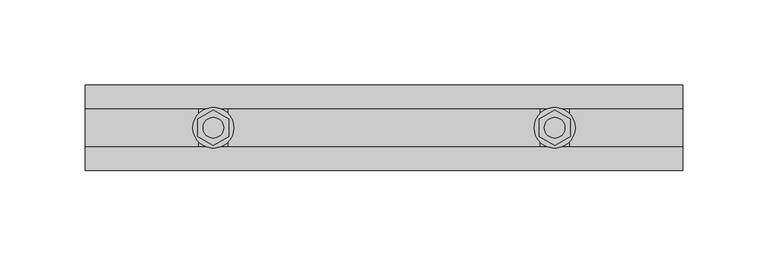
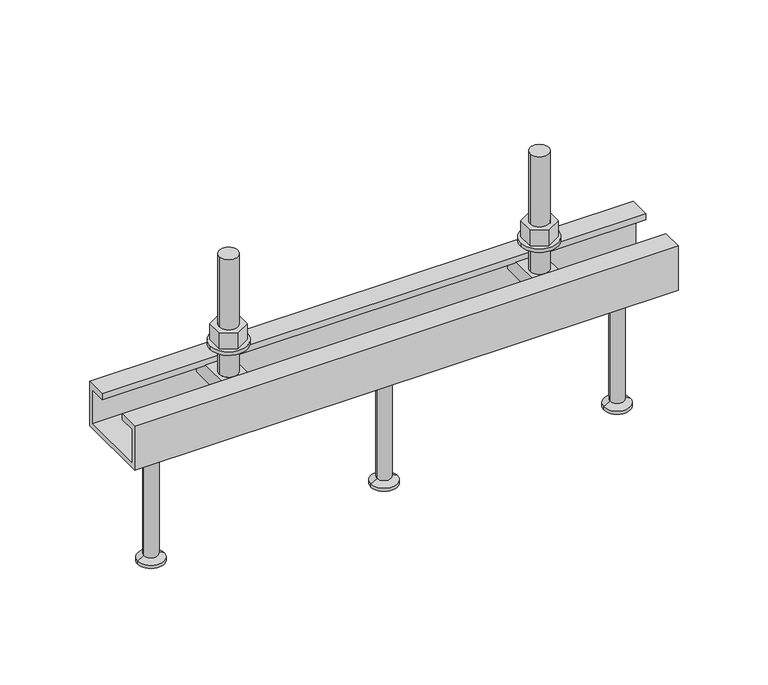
"""IFC4 building model written with IfcOpenShell, lengths in millimetres: fastener geometry, JTA-W JORDAHL® AnchorChannels : JTA-W L=350 mm."""

import ifcopenshell
import ifcopenshell.guid

model = None  # the IFC model being written
_history = None  # IfcOwnerHistory: only IFC2X3 demands one
_inside = {}  # id of a spatial element -> (the spatial element, [elements in it])
_under = {}  # id of a project, library or spatial element -> (it, [spatial elements below it])
_declared = {}  # id of a project -> (the project, [libraries it declares])
_typed = {}  # id of a type object -> (the type object, [elements of that type])
_made_of = {}  # id of a material, layer set ... -> (it, [elements and type objects made of it])


def new_model(schema):
    """Start an empty IFC model of exactly this schema.

    Asked for "IFC4X3", IfcOpenShell would pick the latest addendum, in which some entities
    have other attributes; the version numbers below select the first issue.
    IFC2X3 requires an IfcOwnerHistory on every rooted entity: one is made here for all.
    """
    global model, _history
    if schema == "IFC4X3":
        model = ifcopenshell.file(schema_version=(4, 3, 0, 0))
    else:
        model = ifcopenshell.file(schema=schema)
    _inside.clear()
    _under.clear()
    _declared.clear()
    _typed.clear()
    _made_of.clear()
    _history = None
    if model.schema == "IFC2X3":
        org = make("IfcOrganization", Name="unknown")
        user = make(
            "IfcPersonAndOrganization",
            ThePerson=make("IfcPerson", FamilyName="unknown"),
            TheOrganization=org,
        )
        app = make(
            "IfcApplication",
            ApplicationDeveloper=org,
            Version="unknown",
            ApplicationFullName="unknown",
            ApplicationIdentifier="unknown",
        )
        _history = make(
            "IfcOwnerHistory",
            OwningUser=user,
            OwningApplication=app,
            ChangeAction="ADDED",
            CreationDate=0,
        )
    return model


def make(cls, **values):
    """One entity of the class cls with the attributes given. An attribute that is None is left unset."""
    return model.create_entity(
        cls, **{name: value for name, value in values.items() if value is not None}
    )


def rooted(cls, **values):
    """An entity with a GlobalId (a new one), such as an element, a storey or a relation."""
    return make(cls, GlobalId=ifcopenshell.guid.new(), OwnerHistory=_history, **values)


def si_unit(unit_type, name, prefix=None):
    """IfcSIUnit, for example si_unit("LENGTHUNIT", "METRE", prefix="MILLI")."""
    return make("IfcSIUnit", UnitType=unit_type, Prefix=prefix, Name=name)


def assignment(units):
    """IfcUnitAssignment: the units of a project."""
    return None if units is None else make("IfcUnitAssignment", Units=units)


def point(xyz):
    """IfcCartesianPoint."""
    return None if xyz is None else make("IfcCartesianPoint", Coordinates=xyz)


def direction(xyz):
    """IfcDirection."""
    return None if xyz is None else make("IfcDirection", DirectionRatios=xyz)


def frame(location, z_axis=None, x_axis=None):
    """IfcAxis2Placement3D, a coordinate frame: its origin and axes. An axis left out is left unset."""
    return make(
        "IfcAxis2Placement3D",
        Location=point(location),
        Axis=direction(z_axis),
        RefDirection=direction(x_axis),
    )


def frame_2d(location, x_axis=None):
    """IfcAxis2Placement2D, a coordinate frame in the plane: its origin and x axis."""
    return make(
        "IfcAxis2Placement2D", Location=point(location), RefDirection=direction(x_axis)
    )


def origin():
    """The frame at (0, 0, 0) with its axes left unset."""
    return frame((0.0, 0.0, 0.0))


def place(relative_to, where):
    """IfcLocalPlacement: puts the frame where relative to a parent placement (None: the world)."""
    return make(
        "IfcLocalPlacement", PlacementRelTo=relative_to, RelativePlacement=where
    )


def context(
    kind, dimensions, precision=None, world=None, true_north=None, identifier=None
):
    """IfcGeometricRepresentationContext, for example the 3D "Model" context."""
    return make(
        "IfcGeometricRepresentationContext",
        ContextIdentifier=identifier,
        ContextType=kind,
        CoordinateSpaceDimension=dimensions,
        Precision=precision,
        WorldCoordinateSystem=world,
        TrueNorth=true_north,
    )


def project(units=None, contexts=None):
    """IfcProject with its units and contexts."""
    return rooted(
        "IfcProject",
        Name="project",
        RepresentationContexts=contexts,
        UnitsInContext=assignment(units),
    )


def spatial(cls, under=None, at=None, **own):
    """A site, building, storey or space (cls), placed at a placement, below another one or the project."""
    s = rooted(cls, ObjectPlacement=at, **own)
    if under is not None:
        _under.setdefault(under.id(), (under, []))[1].append(s)
    return s


def polyline(points):
    """IfcPolyline through the points."""
    return make("IfcPolyline", Points=[point(p) for p in points])


def circle_curve(where, radius):
    """IfcCircle in the frame where."""
    return make("IfcCircle", Position=where, Radius=radius)


def trimmed(basis, trim1, trim2, sense, master):
    """IfcTrimmedCurve: the piece of a basis curve between two trims."""
    return make(
        "IfcTrimmedCurve",
        BasisCurve=basis,
        Trim1=trim1,
        Trim2=trim2,
        SenseAgreement=sense,
        MasterRepresentation=master,
    )


def segment(curve, same_sense, transition):
    """IfcCompositeCurveSegment."""
    return make(
        "IfcCompositeCurveSegment",
        Transition=transition,
        SameSense=same_sense,
        ParentCurve=curve,
    )


def composite_curve(segments, self_intersect=None):
    """IfcCompositeCurve: segments joined end to end."""
    return make("IfcCompositeCurve", Segments=segments, SelfIntersect=self_intersect)


def outline(outer, holes=None, kind="AREA"):
    """IfcArbitraryClosedProfileDef: a profile drawn as a closed curve; with holes, ...WithVoids."""
    if holes is None:
        return make("IfcArbitraryClosedProfileDef", ProfileType=kind, OuterCurve=outer)
    return make(
        "IfcArbitraryProfileDefWithVoids",
        ProfileType=kind,
        OuterCurve=outer,
        InnerCurves=holes,
    )


def extrude(swept, where, along, depth):
    """IfcExtrudedAreaSolid: the profile swept, set in the frame where, extruded along a direction by depth."""
    return make(
        "IfcExtrudedAreaSolid",
        SweptArea=swept,
        Position=where,
        ExtrudedDirection=direction(along),
        Depth=depth,
    )


def shape(context_of_items, identifier, shape_type, items):
    """IfcShapeRepresentation: the items that make up one representation, for example the "Body"."""
    return make(
        "IfcShapeRepresentation",
        ContextOfItems=context_of_items,
        RepresentationIdentifier=identifier,
        RepresentationType=shape_type,
        Items=items,
    )


def source(mapping_origin, context_of_items, identifier, shape_type, items):
    """IfcRepresentationMap: a shape defined once, which mapped items show again and again."""
    return make(
        "IfcRepresentationMap",
        MappingOrigin=mapping_origin,
        MappedRepresentation=shape(context_of_items, identifier, shape_type, items),
    )


def transform(
    local_origin,
    x_axis=None,
    y_axis=None,
    z_axis=None,
    scale=None,
    scale2=None,
    scale3=None,
    uniform=True,
):
    """IfcCartesianTransformationOperator3D, or its non-uniform kind. x_axis, y_axis, z_axis: its Axis1, 2, 3."""
    if uniform:
        return make(
            "IfcCartesianTransformationOperator3D",
            Axis1=direction(x_axis),
            Axis2=direction(y_axis),
            LocalOrigin=point(local_origin),
            Scale=scale,
            Axis3=direction(z_axis),
        )
    return make(
        "IfcCartesianTransformationOperator3DnonUniform",
        Axis1=direction(x_axis),
        Axis2=direction(y_axis),
        LocalOrigin=point(local_origin),
        Scale=scale,
        Axis3=direction(z_axis),
        Scale2=scale2,
        Scale3=scale3,
    )


def mapped(mapping_source, mapping_target):
    """IfcMappedItem: shows the shape of a source again, moved by a transform."""
    return make(
        "IfcMappedItem", MappingSource=mapping_source, MappingTarget=mapping_target
    )


def made_of(thing, what):
    """Note that an element or type object is made of a material, layer set ...; save() writes the relation."""
    if what is not None:
        _made_of.setdefault(what.id(), (what, []))[1].append(thing)
    return thing


def element(
    cls,
    number,
    at=None,
    inside=None,
    cuts=None,
    type_object=None,
    material=None,
    context=None,
    identifier="Body",
    shape_type=None,
    held_by="IfcProductDefinitionShape",
    body=None,
    shapes=None,
    **own,
):
    """One element of the class cls, such as IfcWall. Its Tag is "e" and its number.

    at: its placement. inside: the storey or other place that contains it. cuts: it is an
    opening in that element (IfcRelVoidsElement). A single representation is given by context,
    identifier, shape_type and body (its items); several are given by shapes. held_by: the class
    of the entity that holds the representations. save() writes the other relations.
    """
    e = rooted(cls, Tag="e%d" % number, ObjectPlacement=at, **own)
    if body is not None:
        shapes = [shape(context, identifier, shape_type, body)]
    if shapes is not None:
        e.Representation = make(held_by, Representations=shapes)
    if inside is not None:
        _inside.setdefault(inside.id(), (inside, []))[1].append(e)
    if cuts is not None:
        rooted(
            "IfcRelVoidsElement", RelatingBuildingElement=cuts, RelatedOpeningElement=e
        )
    if type_object is not None:
        _typed.setdefault(type_object.id(), (type_object, []))[1].append(e)
    return made_of(e, material)


def aggregate(whole, parts):
    """IfcRelAggregates: a whole, such as a stair, and the parts it consists of."""
    return rooted("IfcRelAggregates", RelatingObject=whole, RelatedObjects=parts)


def save(model, path):
    """Write the relations noted so far, then the file.

    IfcRelAggregates (storeys below a building ...), IfcRelContainedInSpatialStructure (elements
    in a storey), IfcRelDefinesByType, IfcRelAssociatesMaterial and IfcRelDeclares: one each for
    every whole, place, type object, material and project.
    """
    for whole, parts in _under.values():
        aggregate(whole, parts)
    for where, things in _inside.values():
        rooted(
            "IfcRelContainedInSpatialStructure",
            RelatedElements=things,
            RelatingStructure=where,
        )
    for kind, things in _typed.values():
        rooted("IfcRelDefinesByType", RelatedObjects=things, RelatingType=kind)
    for what, things in _made_of.values():
        rooted("IfcRelAssociatesMaterial", RelatedObjects=things, RelatingMaterial=what)
    for by, libraries in _declared.values():
        rooted("IfcRelDeclares", RelatingContext=by, RelatedDefinitions=libraries)
    model.write(path)


def plane_surface(at):
    """IfcPlane: the flat surface through the origin of the frame at, square to its z axis."""
    return make("IfcPlane", Position=at)


def cylinder_surface(at, radius):
    """IfcCylindricalSurface: all points at the distance radius from the z axis of the frame at."""
    return make("IfcCylindricalSurface", Position=at, Radius=radius)


def revolved_surface(curve, axis_point, axis_direction):
    """IfcSurfaceOfRevolution: the curve turned about the line through axis_point along axis_direction."""
    return make(
        "IfcSurfaceOfRevolution",
        SweptCurve=make("IfcArbitraryOpenProfileDef", ProfileType="CURVE", Curve=curve),
        AxisPosition=make("IfcAxis1Placement", Location=point(axis_point), Axis=direction(axis_direction)),
    )


def advanced_brep(points, edges, surfaces, faces):
    """IfcAdvancedBrep: a solid bounded by faces that lie on surfaces and meet in shared edges.

    An edge is (start, end): straight between two places in points (the first is 0);
    or (start, end, curve); or (start, end, curve, False) where it runs against its curve.
    A face is (place in surfaces, loops), or (place, loops, False) where it looks against
    its surface's normal. A loop lists edges by number (the first is 1), with a minus sign
    where the edge is run from its end to its start. The first loop is the outer one.
    """
    corners = [point(p) for p in points]
    vertices = [make("IfcVertexPoint", VertexGeometry=c) for c in corners]
    made = []
    for start, end, *more in edges:
        made.append(
            make(
                "IfcEdgeCurve",
                EdgeStart=vertices[start],
                EdgeEnd=vertices[end],
                EdgeGeometry=more[0] if more else make("IfcPolyline", Points=[corners[start], corners[end]]),
                SameSense=more[1] if len(more) > 1 else True,
            )
        )
    hull = []
    for where, loops, *sense in faces:
        bounds = []
        for j, loop in enumerate(loops):
            ring = [make("IfcOrientedEdge", EdgeElement=made[abs(k) - 1], Orientation=k > 0) for k in loop]
            bounds.append(
                make(
                    "IfcFaceOuterBound" if j == 0 else "IfcFaceBound",
                    Bound=make("IfcEdgeLoop", EdgeList=ring),
                    Orientation=True,
                )
            )
        hull.append(make("IfcAdvancedFace", Bounds=bounds, FaceSurface=surfaces[where], SameSense=sense[0] if sense else True))
    return make("IfcAdvancedBrep", Outer=make("IfcClosedShell", CfsFaces=hull))


def fastener_47a1bfda(model_context):
    return source(origin(), model_context, "Body", "SolidModel", [
        advanced_brep(
        [(175.0, 0.0, -30.0), (161.5, 0.0, -30.0), (188.5, 0.0, -30.0), (166.5, 0.0, -115.0), (175.0, 0.0, -115.0), (183.5, 0.0, -115.0), (166.5, 0.0, -113.0), (183.5, 0.0, -113.0), (170.5, 0.0, -110.6905989), (179.5, 0.0, -110.6905989), (170.5, 0.0, -32.5), (179.5, 0.0, -32.5)],
        [
            (0, 1),
            (1, 2, circle_curve(frame((175.0, 0.0, -30.0), z_axis=(0.0, 0.0, 1.0), x_axis=(1.0, 0.0, 0.0)), 13.5)),
            (2, 0),
            (2, 1, circle_curve(frame((175.0, 0.0, -30.0), z_axis=(0.0, 0.0, 1.0), x_axis=(1.0, 0.0, 0.0)), 13.5)),
            (3, 4),
            (4, 5),
            (5, 3, circle_curve(frame((175.0, 0.0, -115.0), z_axis=(0.0, 0.0, -1.0), x_axis=(1.0, 0.0, 0.0)), 8.5)),
            (3, 5, circle_curve(frame((175.0, 0.0, -115.0), z_axis=(0.0, 0.0, -1.0), x_axis=(1.0, 0.0, 0.0)), 8.5)),
            (6, 3),
            (5, 7),
            (7, 6, circle_curve(frame((175.0, 0.0, -113.0), z_axis=(0.0, 0.0, -1.0), x_axis=(1.0, 0.0, 0.0)), 8.5)),
            (6, 7, circle_curve(frame((175.0, 0.0, -113.0), z_axis=(0.0, 0.0, -1.0), x_axis=(1.0, 0.0, 0.0)), 8.5)),
            (8, 6),
            (7, 9),
            (9, 8, circle_curve(frame((175.0, 0.0, -110.6905989), z_axis=(0.0, 0.0, -1.0), x_axis=(1.0, 0.0, 0.0)), 4.5)),
            (8, 9, circle_curve(frame((175.0, 0.0, -110.6905989), z_axis=(0.0, 0.0, -1.0), x_axis=(1.0, 0.0, 0.0)), 4.5)),
            (10, 8),
            (9, 11),
            (11, 10, circle_curve(frame((175.0, 0.0, -32.5), z_axis=(0.0, 0.0, -1.0), x_axis=(1.0, 0.0, 0.0)), 4.5)),
            (10, 11, circle_curve(frame((175.0, 0.0, -32.5), z_axis=(0.0, 0.0, -1.0), x_axis=(1.0, 0.0, 0.0)), 4.5)),
            (1, 10),
            (11, 2),
        ],
        [
            plane_surface(frame((175.0, 0.0, -30.0), z_axis=(0.0, 0.0, 1.0), x_axis=(1.0, 0.0, 0.0))),
            plane_surface(frame((175.0, 0.0, -115.0), z_axis=(0.0, 0.0, -1.0), x_axis=(1.0, 0.0, 0.0))),
            cylinder_surface(frame((175.0, 0.0, 2299.3150031), z_axis=(0.0, 0.0, 1.0), x_axis=(1.0, 0.0, 0.0)), 8.5),
            revolved_surface(polyline([(183.5, 0.0, -113.0), (179.5, 0.0, -110.6905989)]), (175.0, 0.0, 2299.3150031), (0.0, 0.0, 1.0)),
            cylinder_surface(frame((175.0, 0.0, 2299.3150031), z_axis=(0.0, 0.0, 1.0), x_axis=(1.0, 0.0, 0.0)), 4.5),
            revolved_surface(polyline([(179.5, 0.0, -32.5), (188.5, 0.0, -30.0)]), (175.0, 0.0, 2299.3150031), (0.0, 0.0, 1.0)),
        ],
        [
            (0, [[1, 2, 3]]),
            (0, [[-3, 4, -1]]),
            (1, [[5, 6, 7]]),
            (1, [[-6, -5, 8]]),
            (2, [[9, -7, 10, 11]]),
            (2, [[-10, -8, -9, 12]]),
            (3, [[13, -11, 14, 15]]),
            (3, [[-14, -12, -13, 16]]),
            (4, [[17, -15, 18, 19]]),
            (4, [[-18, -16, -17, 20]]),
            (5, [[21, -19, 22, -2]]),
            (5, [[-22, -20, -21, -4]]),
        ],
    ),
        extrude(outline(polyline([(275.0, -10.3923048), (266.0, -5.1961524), (266.0, 5.1961524), (275.0, 10.3923048), (284.0, 5.1961524), (284.0, -5.1961524), (275.0, -10.3923048)]), holes=[composite_curve([segment(trimmed(circle_curve(frame_2d((275.0, 0.0)), 6.0), [point((269.0, 0.0))], [point((281.0, 0.0))], True, "CARTESIAN"), True, "CONTINUOUS"), segment(trimmed(circle_curve(frame_2d((275.0, 0.0)), 6.0), [point((281.0, 0.0))], [point((269.0, 0.0))], True, "CARTESIAN"), True, "CONTINUOUS")], self_intersect=False)]), frame((0.0, 0.0, 17.5), z_axis=(0.0, 0.0, 1.0), x_axis=(1.0, 0.0, 0.0)), (0.0, 0.0, 1.0), 10.8),
        extrude(outline(composite_curve([segment(trimmed(circle_curve(frame_2d((275.0, 0.0)), 12.0), [point((263.0, 0.0))], [point((287.0, 0.0))], False, "CARTESIAN"), True, "CONTINUOUS"), segment(trimmed(circle_curve(frame_2d((275.0, 0.0)), 12.0), [point((287.0, 0.0))], [point((263.0, 0.0))], False, "CARTESIAN"), True, "CONTINUOUS")], self_intersect=False), holes=[composite_curve([segment(trimmed(circle_curve(frame_2d((275.0, 0.0)), 6.5), [point((268.5, 0.0))], [point((281.5, 0.0))], True, "CARTESIAN"), True, "CONTINUOUS"), segment(trimmed(circle_curve(frame_2d((275.0, 0.0)), 6.5), [point((281.5, 0.0))], [point((268.5, 0.0))], True, "CARTESIAN"), True, "CONTINUOUS")], self_intersect=False)]), frame((0.0, 0.0, 15.0), z_axis=(0.0, 0.0, 1.0), x_axis=(1.0, 0.0, 0.0)), (0.0, 0.0, 1.0), 2.5),
        extrude(outline(polyline([(75.0, -10.3923048), (66.0, -5.1961524), (66.0, 5.1961524), (75.0, 10.3923048), (84.0, 5.1961524), (84.0, -5.1961524), (75.0, -10.3923048)]), holes=[composite_curve([segment(trimmed(circle_curve(frame_2d((75.0, 0.0)), 6.0), [point((69.0, 0.0))], [point((81.0, 0.0))], True, "CARTESIAN"), True, "CONTINUOUS"), segment(trimmed(circle_curve(frame_2d((75.0, 0.0)), 6.0), [point((81.0, 0.0))], [point((69.0, 0.0))], True, "CARTESIAN"), True, "CONTINUOUS")], self_intersect=False)]), frame((0.0, 0.0, 17.5), z_axis=(0.0, 0.0, 1.0), x_axis=(1.0, 0.0, 0.0)), (0.0, 0.0, 1.0), 10.8),
        extrude(outline(composite_curve([segment(trimmed(circle_curve(frame_2d((75.0, 0.0)), 12.0), [point((63.0, 0.0))], [point((87.0, 0.0))], False, "CARTESIAN"), True, "CONTINUOUS"), segment(trimmed(circle_curve(frame_2d((75.0, 0.0)), 12.0), [point((87.0, 0.0))], [point((63.0, 0.0))], False, "CARTESIAN"), True, "CONTINUOUS")], self_intersect=False), holes=[composite_curve([segment(trimmed(circle_curve(frame_2d((75.0, 0.0)), 6.5), [point((68.5, 0.0))], [point((81.5, 0.0))], True, "CARTESIAN"), True, "CONTINUOUS"), segment(trimmed(circle_curve(frame_2d((75.0, 0.0)), 6.5), [point((81.5, 0.0))], [point((68.5, 0.0))], True, "CARTESIAN"), True, "CONTINUOUS")], self_intersect=False)]), frame((0.0, 0.0, 15.0), z_axis=(0.0, 0.0, 1.0), x_axis=(1.0, 0.0, 0.0)), (0.0, 0.0, 1.0), 2.5),
        advanced_brep(
        [(283.5, -20.7, -4.0), (283.5, -20.7, -14.0), (283.5, 20.7, -14.0), (283.5, 20.7, -4.0), (266.5, -20.7, -4.0), (266.5, 20.7, -4.0), (266.5, 20.7, -14.0), (266.5, -20.7, -14.0), (281.0, 0.0, -4.0), (269.0, 0.0, -4.0), (269.0, 0.0, 76.0), (281.0, 0.0, 76.0)],
        [
            (0, 1),
            (1, 2),
            (2, 3),
            (3, 0),
            (4, 5),
            (5, 6),
            (6, 7),
            (7, 4),
            (3, 5),
            (4, 0),
            (8, 9, circle_curve(frame((275.0, 0.0, -4.0), z_axis=(0.0, 0.0, -1.0), x_axis=(1.0, 0.0, 0.0)), 6.0)),
            (9, 8, circle_curve(frame((275.0, 0.0, -4.0), z_axis=(0.0, 0.0, -1.0), x_axis=(1.0, 0.0, 0.0)), 6.0)),
            (2, 6),
            (1, 7),
            (10, 11, circle_curve(frame((275.0, 0.0, 76.0), z_axis=(0.0, 0.0, 1.0), x_axis=(1.0, 0.0, 0.0)), 6.0)),
            (11, 10, circle_curve(frame((275.0, 0.0, 76.0), z_axis=(0.0, 0.0, 1.0), x_axis=(1.0, 0.0, 0.0)), 6.0)),
            (11, 8),
            (9, 10),
        ],
        [
            plane_surface(frame((283.5, 20.7, -4.0), z_axis=(1.0, 0.0, 0.0), x_axis=(0.0, 1.0, 0.0))),
            plane_surface(frame((266.5, 20.7, -4.0), z_axis=(-1.0, 0.0, 0.0), x_axis=(0.0, -1.0, 0.0))),
            plane_surface(frame((283.5, -20.7, -4.0), z_axis=(0.0, 0.0, 1.0), x_axis=(-1.0, 0.0, 0.0))),
            plane_surface(frame((283.5, 20.7, -4.0), z_axis=(0.0, 1.0, 0.0), x_axis=(-1.0, 0.0, 0.0))),
            plane_surface(frame((283.5, 20.7, -14.0), z_axis=(0.0, 0.0, -1.0), x_axis=(-1.0, 0.0, 0.0))),
            plane_surface(frame((283.5, -20.7, -14.0), z_axis=(0.0, -1.0, 0.0), x_axis=(-1.0, 0.0, 0.0))),
            plane_surface(frame((281.0, 0.0, 76.0), z_axis=(0.0, 0.0, 1.0), x_axis=(0.0, -1.0, 0.0))),
            cylinder_surface(frame((275.0, 0.0, -4.0), z_axis=(0.0, 0.0, 1.0), x_axis=(1.0, 0.0, 0.0)), 6.0),
        ],
        [
            (0, [[1, 2, 3, 4]]),
            (1, [[5, 6, 7, 8]]),
            (2, [[9, -5, 10, -4], [11, 12]]),
            (3, [[13, -6, -9, -3]]),
            (4, [[14, -7, -13, -2]]),
            (5, [[-10, -8, -14, -1]]),
            (6, [[15, 16]]),
            (7, [[17, -12, 18, -16]]),
            (7, [[-18, -11, -17, -15]]),
        ],
    ),
        advanced_brep(
        [(83.5, -20.7, -4.0), (83.5, -20.7, -14.0), (83.5, 20.7, -14.0), (83.5, 20.7, -4.0), (66.5, -20.7, -4.0), (66.5, 20.7, -4.0), (66.5, 20.7, -14.0), (66.5, -20.7, -14.0), (81.0, 0.0, -4.0), (69.0, 0.0, -4.0), (69.0, 0.0, 76.0), (81.0, 0.0, 76.0)],
        [
            (0, 1),
            (1, 2),
            (2, 3),
            (3, 0),
            (4, 5),
            (5, 6),
            (6, 7),
            (7, 4),
            (3, 5),
            (4, 0),
            (8, 9, circle_curve(frame((75.0, 0.0, -4.0), z_axis=(0.0, 0.0, -1.0), x_axis=(1.0, 0.0, 0.0)), 6.0)),
            (9, 8, circle_curve(frame((75.0, 0.0, -4.0), z_axis=(0.0, 0.0, -1.0), x_axis=(1.0, 0.0, 0.0)), 6.0)),
            (2, 6),
            (1, 7),
            (10, 11, circle_curve(frame((75.0, 0.0, 76.0), z_axis=(0.0, 0.0, 1.0), x_axis=(1.0, 0.0, 0.0)), 6.0)),
            (11, 10, circle_curve(frame((75.0, 0.0, 76.0), z_axis=(0.0, 0.0, 1.0), x_axis=(1.0, 0.0, 0.0)), 6.0)),
            (11, 8),
            (9, 10),
        ],
        [
            plane_surface(frame((83.5, 20.7, -4.0), z_axis=(1.0, 0.0, 0.0), x_axis=(0.0, 1.0, 0.0))),
            plane_surface(frame((66.5, 20.7, -4.0), z_axis=(-1.0, 0.0, 0.0), x_axis=(0.0, -1.0, 0.0))),
            plane_surface(frame((83.5, -20.7, -4.0), z_axis=(0.0, 0.0, 1.0), x_axis=(-1.0, 0.0, 0.0))),
            plane_surface(frame((83.5, 20.7, -4.0), z_axis=(0.0, 1.0, 0.0), x_axis=(-1.0, 0.0, 0.0))),
            plane_surface(frame((83.5, 20.7, -14.0), z_axis=(0.0, 0.0, -1.0), x_axis=(-1.0, 0.0, 0.0))),
            plane_surface(frame((83.5, -20.7, -14.0), z_axis=(0.0, -1.0, 0.0), x_axis=(-1.0, 0.0, 0.0))),
            plane_surface(frame((81.0, 0.0, 76.0), z_axis=(0.0, 0.0, 1.0), x_axis=(0.0, -1.0, 0.0))),
            cylinder_surface(frame((75.0, 0.0, -4.0), z_axis=(0.0, 0.0, 1.0), x_axis=(1.0, 0.0, 0.0)), 6.0),
        ],
        [
            (0, [[1, 2, 3, 4]]),
            (1, [[5, 6, 7, 8]]),
            (2, [[9, -5, 10, -4], [11, 12]]),
            (3, [[13, -6, -9, -3]]),
            (4, [[14, -7, -13, -2]]),
            (5, [[-10, -8, -14, -1]]),
            (6, [[15, 16]]),
            (7, [[17, -12, 18, -16]]),
            (7, [[-18, -11, -17, -15]]),
        ],
    ),
        advanced_brep(
        [(325.0, 0.0, -30.0), (311.5, 0.0, -30.0), (338.5, 0.0, -30.0), (316.5, 0.0, -115.0), (325.0, 0.0, -115.0), (333.5, 0.0, -115.0), (316.5, 0.0, -113.0), (333.5, 0.0, -113.0), (320.5, 0.0, -110.6905989), (329.5, 0.0, -110.6905989), (320.5, 0.0, -32.5), (329.5, 0.0, -32.5)],
        [
            (0, 1),
            (1, 2, circle_curve(frame((325.0, 0.0, -30.0), z_axis=(0.0, 0.0, 1.0), x_axis=(1.0, 0.0, 0.0)), 13.5)),
            (2, 0),
            (2, 1, circle_curve(frame((325.0, 0.0, -30.0), z_axis=(0.0, 0.0, 1.0), x_axis=(1.0, 0.0, 0.0)), 13.5)),
            (3, 4),
            (4, 5),
            (5, 3, circle_curve(frame((325.0, 0.0, -115.0), z_axis=(0.0, 0.0, -1.0), x_axis=(1.0, 0.0, 0.0)), 8.5)),
            (3, 5, circle_curve(frame((325.0, 0.0, -115.0), z_axis=(0.0, 0.0, -1.0), x_axis=(1.0, 0.0, 0.0)), 8.5)),
            (6, 3),
            (5, 7),
            (7, 6, circle_curve(frame((325.0, 0.0, -113.0), z_axis=(0.0, 0.0, -1.0), x_axis=(1.0, 0.0, 0.0)), 8.5)),
            (6, 7, circle_curve(frame((325.0, 0.0, -113.0), z_axis=(0.0, 0.0, -1.0), x_axis=(1.0, 0.0, 0.0)), 8.5)),
            (8, 6),
            (7, 9),
            (9, 8, circle_curve(frame((325.0, 0.0, -110.6905989), z_axis=(0.0, 0.0, -1.0), x_axis=(1.0, 0.0, 0.0)), 4.5)),
            (8, 9, circle_curve(frame((325.0, 0.0, -110.6905989), z_axis=(0.0, 0.0, -1.0), x_axis=(1.0, 0.0, 0.0)), 4.5)),
            (10, 8),
            (9, 11),
            (11, 10, circle_curve(frame((325.0, 0.0, -32.5), z_axis=(0.0, 0.0, -1.0), x_axis=(1.0, 0.0, 0.0)), 4.5)),
            (10, 11, circle_curve(frame((325.0, 0.0, -32.5), z_axis=(0.0, 0.0, -1.0), x_axis=(1.0, 0.0, 0.0)), 4.5)),
            (1, 10),
            (11, 2),
        ],
        [
            plane_surface(frame((325.0, 0.0, -30.0), z_axis=(0.0, 0.0, 1.0), x_axis=(1.0, 0.0, 0.0))),
            plane_surface(frame((325.0, 0.0, -115.0), z_axis=(0.0, 0.0, -1.0), x_axis=(1.0, 0.0, 0.0))),
            cylinder_surface(frame((325.0, 0.0, 2299.3150031), z_axis=(0.0, 0.0, 1.0), x_axis=(1.0, 0.0, 0.0)), 8.5),
            revolved_surface(polyline([(333.5, 0.0, -113.0), (329.5, 0.0, -110.6905989)]), (325.0, 0.0, 2299.3150031), (0.0, 0.0, 1.0)),
            cylinder_surface(frame((325.0, 0.0, 2299.3150031), z_axis=(0.0, 0.0, 1.0), x_axis=(1.0, 0.0, 0.0)), 4.5),
            revolved_surface(polyline([(329.5, 0.0, -32.5), (338.5, 0.0, -30.0)]), (325.0, 0.0, 2299.3150031), (0.0, 0.0, 1.0)),
        ],
        [
            (0, [[1, 2, 3]]),
            (0, [[-3, 4, -1]]),
            (1, [[5, 6, 7]]),
            (1, [[-6, -5, 8]]),
            (2, [[9, -7, 10, 11]]),
            (2, [[-10, -8, -9, 12]]),
            (3, [[13, -11, 14, 15]]),
            (3, [[-14, -12, -13, 16]]),
            (4, [[17, -15, 18, 19]]),
            (4, [[-18, -16, -17, 20]]),
            (5, [[21, -19, 22, -2]]),
            (5, [[-22, -20, -21, -4]]),
        ],
    ),
        advanced_brep(
        [(25.0, 0.0, -30.0), (11.5, 0.0, -30.0), (38.5, 0.0, -30.0), (16.5, 0.0, -115.0), (25.0, 0.0, -115.0), (33.5, 0.0, -115.0), (16.5, 0.0, -113.0), (33.5, 0.0, -113.0), (20.5, 0.0, -110.6905989), (29.5, 0.0, -110.6905989), (20.5, 0.0, -32.5), (29.5, 0.0, -32.5)],
        [
            (0, 1),
            (1, 2, circle_curve(frame((25.0, 0.0, -30.0), z_axis=(0.0, 0.0, 1.0), x_axis=(1.0, 0.0, 0.0)), 13.5)),
            (2, 0),
            (2, 1, circle_curve(frame((25.0, 0.0, -30.0), z_axis=(0.0, 0.0, 1.0), x_axis=(1.0, 0.0, 0.0)), 13.5)),
            (3, 4),
            (4, 5),
            (5, 3, circle_curve(frame((25.0, 0.0, -115.0), z_axis=(0.0, 0.0, -1.0), x_axis=(1.0, 0.0, 0.0)), 8.5)),
            (3, 5, circle_curve(frame((25.0, 0.0, -115.0), z_axis=(0.0, 0.0, -1.0), x_axis=(1.0, 0.0, 0.0)), 8.5)),
            (6, 3),
            (5, 7),
            (7, 6, circle_curve(frame((25.0, 0.0, -113.0), z_axis=(0.0, 0.0, -1.0), x_axis=(1.0, 0.0, 0.0)), 8.5)),
            (6, 7, circle_curve(frame((25.0, 0.0, -113.0), z_axis=(0.0, 0.0, -1.0), x_axis=(1.0, 0.0, 0.0)), 8.5)),
            (8, 6),
            (7, 9),
            (9, 8, circle_curve(frame((25.0, 0.0, -110.6905989), z_axis=(0.0, 0.0, -1.0), x_axis=(1.0, 0.0, 0.0)), 4.5)),
            (8, 9, circle_curve(frame((25.0, 0.0, -110.6905989), z_axis=(0.0, 0.0, -1.0), x_axis=(1.0, 0.0, 0.0)), 4.5)),
            (10, 8),
            (9, 11),
            (11, 10, circle_curve(frame((25.0, 0.0, -32.5), z_axis=(0.0, 0.0, -1.0), x_axis=(1.0, 0.0, 0.0)), 4.5)),
            (10, 11, circle_curve(frame((25.0, 0.0, -32.5), z_axis=(0.0, 0.0, -1.0), x_axis=(1.0, 0.0, 0.0)), 4.5)),
            (1, 10),
            (11, 2),
        ],
        [
            plane_surface(frame((25.0, 0.0, -30.0), z_axis=(0.0, 0.0, 1.0), x_axis=(1.0, 0.0, 0.0))),
            plane_surface(frame((25.0, 0.0, -115.0), z_axis=(0.0, 0.0, -1.0), x_axis=(1.0, 0.0, 0.0))),
            cylinder_surface(frame((25.0, 0.0, 2299.3150031), z_axis=(0.0, 0.0, 1.0), x_axis=(1.0, 0.0, 0.0)), 8.5),
            revolved_surface(polyline([(33.5, 0.0, -113.0), (29.5, 0.0, -110.6905989)]), (25.0, 0.0, 2299.3150031), (0.0, 0.0, 1.0)),
            cylinder_surface(frame((25.0, 0.0, 2299.3150031), z_axis=(0.0, 0.0, 1.0), x_axis=(1.0, 0.0, 0.0)), 4.5),
            revolved_surface(polyline([(29.5, 0.0, -32.5), (38.5, 0.0, -30.0)]), (25.0, 0.0, 2299.3150031), (0.0, 0.0, 1.0)),
        ],
        [
            (0, [[1, 2, 3]]),
            (0, [[-3, 4, -1]]),
            (1, [[5, 6, 7]]),
            (1, [[-6, -5, 8]]),
            (2, [[9, -7, 10, 11]]),
            (2, [[-10, -8, -9, 12]]),
            (3, [[13, -11, 14, 15]]),
            (3, [[-14, -12, -13, 16]]),
            (4, [[17, -15, 18, 19]]),
            (4, [[-18, -16, -17, 20]]),
            (5, [[21, -19, 22, -2]]),
            (5, [[-22, -20, -21, -4]]),
        ],
    ),
        extrude(outline(polyline([(-25.0, 0.0), (-11.25, 0.0), (-11.25, -4.0), (-22.2, -4.0), (-22.2, -27.2), (22.2, -27.2), (22.2, -4.0), (11.25, -4.0), (11.25, 0.0), (25.0, 0.0), (25.0, -30.0), (-25.0, -30.0), (-25.0, 0.0)])), frame((0.0, 0.0, 0.0), z_axis=(1.0, 0.0, 0.0), x_axis=(0.0, 1.0, 0.0)), (0.0, 0.0, 1.0), 350.0),
    ])


if __name__ == "__main__":
    model = new_model("IFC4")
    model_context = context("Model", 3, world=origin())
    ifc_project = project(units=[si_unit("LENGTHUNIT", "METRE", prefix="MILLI")], contexts=[model_context])
    site = spatial("IfcSite", under=ifc_project)
    building = spatial("IfcBuilding", under=site)
    placement = place(None, origin())
    fastener_shape = fastener_47a1bfda(model_context)
    element("IfcFastener", 1, ObjectType="JTA-W JORDAHL® AnchorChannels : JTA-W L=350 mm", at=placement, inside=building, context=model_context, shape_type="MappedRepresentation", body=[
        mapped(fastener_shape, transform((0.0, 0.0, 0.0), x_axis=(1.0, 0.0, 0.0), y_axis=(0.0, 1.0, 0.0), z_axis=(0.0, 0.0, 1.0))),
    ])
    save(model, "model.ifc")
